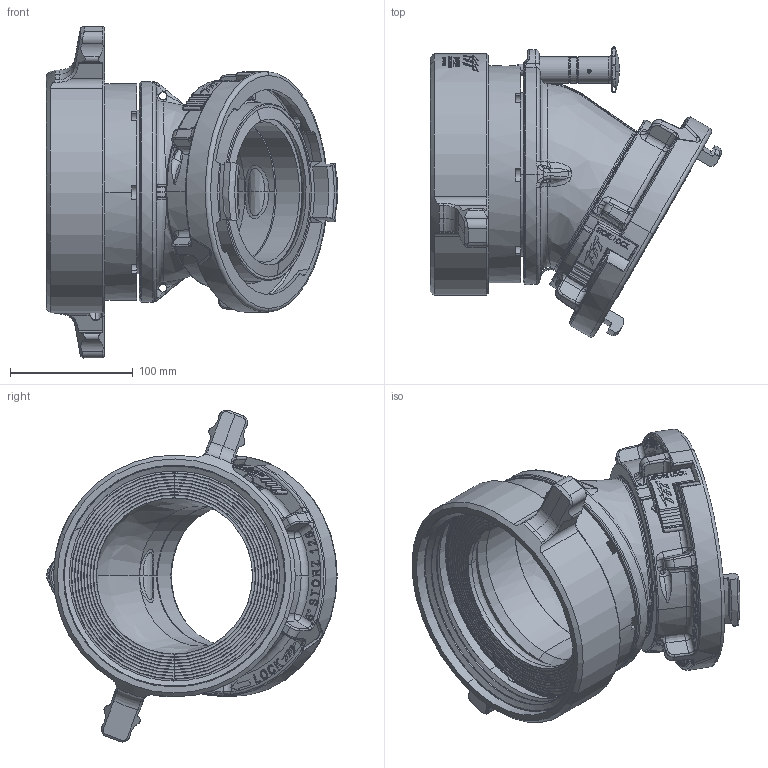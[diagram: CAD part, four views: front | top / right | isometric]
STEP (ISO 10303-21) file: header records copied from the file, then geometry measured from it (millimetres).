
FILE_DESCRIPTION (( 'STEP AP203' ), '1' );
FILE_NAME ('AJ1ST-NX.step', '2014-05-13T18:46:04', ( 'user' ), ( '' ), 'SwSTEP 2.0', 'SolidWorks 2012', '' );
FILE_SCHEMA (( 'CONFIG_CONTROL_DESIGN' ));
Length unit declared in the file: inch
Products named in the file (1): AJ1ST-NX
Bounding box: 236.97 x 236.28 x 270.12 mm (x, y, z)
Surface area: 361862.5 mm2 (no closed solid volume)
Topology: 0 solids, 34 shells, 1193 faces, 4720 edges, 3419 vertices
Faces by surface type: bspline 317, plane 313, cylinder 274, torus 168, cone 97, sphere 24
Entity records: 77191 total; most frequent: CARTESIAN_POINT 43539, ORIENTED_EDGE 7201, DIRECTION 5619, EDGE_CURVE 4717, VERTEX_POINT 3419, AXIS2_PLACEMENT_3D 2066, B_SPLINE_CURVE_WITH_KNOTS 1542, LINE 1487
